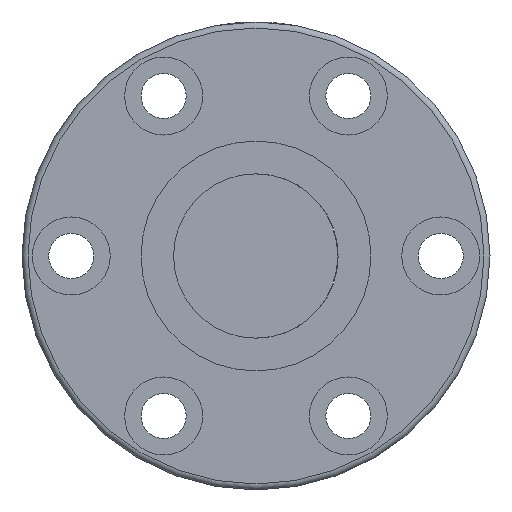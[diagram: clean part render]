
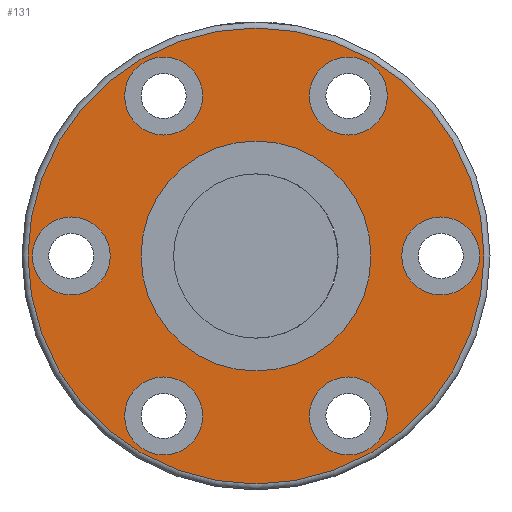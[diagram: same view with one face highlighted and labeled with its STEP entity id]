
A CAD part, front view. The second image highlights one B-rep face of the part: STEP entity #131.
In plain terms, the highlighted planar face has unit normal (0, -1, 0).
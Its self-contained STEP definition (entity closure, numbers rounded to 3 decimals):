
#110=PLANE('',#666);
#131=ADVANCED_FACE('',(#199,#200,#201,#202,#203,#204,#205,#206),#110,.F.);
#199=FACE_BOUND('',#301,.T.);
#200=FACE_BOUND('',#302,.T.);
#201=FACE_BOUND('',#303,.T.);
#202=FACE_BOUND('',#304,.T.);
#203=FACE_BOUND('',#305,.T.);
#204=FACE_BOUND('',#306,.T.);
#205=FACE_BOUND('',#307,.T.);
#206=FACE_BOUND('',#308,.T.);
#301=EDGE_LOOP('',(#403));
#302=EDGE_LOOP('',(#404));
#303=EDGE_LOOP('',(#405));
#304=EDGE_LOOP('',(#406));
#305=EDGE_LOOP('',(#407));
#306=EDGE_LOOP('',(#408));
#307=EDGE_LOOP('',(#409));
#308=EDGE_LOOP('',(#410));
#403=ORIENTED_EDGE('',*,*,#554,.T.);
#404=ORIENTED_EDGE('',*,*,#555,.T.);
#405=ORIENTED_EDGE('',*,*,#556,.T.);
#406=ORIENTED_EDGE('',*,*,#557,.T.);
#407=ORIENTED_EDGE('',*,*,#558,.T.);
#408=ORIENTED_EDGE('',*,*,#559,.T.);
#409=ORIENTED_EDGE('',*,*,#560,.T.);
#410=ORIENTED_EDGE('',*,*,#561,.F.);
#503=VERTEX_POINT('',#946);
#504=VERTEX_POINT('',#948);
#505=VERTEX_POINT('',#950);
#506=VERTEX_POINT('',#952);
#507=VERTEX_POINT('',#954);
#508=VERTEX_POINT('',#956);
#509=VERTEX_POINT('',#958);
#510=VERTEX_POINT('',#960);
#554=EDGE_CURVE('',#503,#503,#605,.T.);
#555=EDGE_CURVE('',#504,#504,#606,.T.);
#556=EDGE_CURVE('',#505,#505,#607,.T.);
#557=EDGE_CURVE('',#506,#506,#608,.T.);
#558=EDGE_CURVE('',#507,#507,#609,.T.);
#559=EDGE_CURVE('',#508,#508,#610,.T.);
#560=EDGE_CURVE('',#509,#509,#611,.T.);
#561=EDGE_CURVE('',#510,#510,#612,.T.);
#605=CIRCLE('',#658,4.75);
#606=CIRCLE('',#659,4.75);
#607=CIRCLE('',#660,4.75);
#608=CIRCLE('',#661,4.75);
#609=CIRCLE('',#662,4.75);
#610=CIRCLE('',#663,4.75);
#611=CIRCLE('',#664,27.767);
#612=CIRCLE('',#665,14.);
#658=AXIS2_PLACEMENT_3D('',#945,#759,#760);
#659=AXIS2_PLACEMENT_3D('',#947,#761,#762);
#660=AXIS2_PLACEMENT_3D('',#949,#763,#764);
#661=AXIS2_PLACEMENT_3D('',#951,#765,#766);
#662=AXIS2_PLACEMENT_3D('',#953,#767,#768);
#663=AXIS2_PLACEMENT_3D('',#955,#769,#770);
#664=AXIS2_PLACEMENT_3D('',#957,#771,#772);
#665=AXIS2_PLACEMENT_3D('',#959,#773,#774);
#666=AXIS2_PLACEMENT_3D('',#961,#775,#776);
#759=DIRECTION('',(0.,1.,0.));
#760=DIRECTION('',(0.,0.,1.));
#761=DIRECTION('',(0.,1.,0.));
#762=DIRECTION('',(0.,0.,1.));
#763=DIRECTION('',(0.,1.,0.));
#764=DIRECTION('',(0.,0.,1.));
#765=DIRECTION('',(0.,1.,0.));
#766=DIRECTION('',(0.,0.,1.));
#767=DIRECTION('',(0.,1.,0.));
#768=DIRECTION('',(0.,0.,1.));
#769=DIRECTION('',(0.,1.,0.));
#770=DIRECTION('',(0.,0.,1.));
#771=DIRECTION('',(0.,-1.,0.));
#772=DIRECTION('',(0.,0.,1.));
#773=DIRECTION('',(0.,-1.,0.));
#774=DIRECTION('',(1.,0.,0.));
#775=DIRECTION('',(0.,1.,0.));
#776=DIRECTION('',(0.,0.,-1.));
#945=CARTESIAN_POINT('',(22.539,-25.461,0.));
#946=CARTESIAN_POINT('',(22.539,-25.461,4.75));
#947=CARTESIAN_POINT('',(-22.461,-25.461,0.));
#948=CARTESIAN_POINT('',(-22.461,-25.461,4.75));
#949=CARTESIAN_POINT('',(11.289,-25.461,-19.486));
#950=CARTESIAN_POINT('',(11.289,-25.461,-14.736));
#951=CARTESIAN_POINT('',(-11.211,-25.461,-19.486));
#952=CARTESIAN_POINT('',(-11.211,-25.461,-14.736));
#953=CARTESIAN_POINT('',(11.289,-25.461,19.486));
#954=CARTESIAN_POINT('',(11.289,-25.461,24.236));
#955=CARTESIAN_POINT('',(-11.211,-25.461,19.486));
#956=CARTESIAN_POINT('',(-11.211,-25.461,24.236));
#957=CARTESIAN_POINT('',(0.039,-25.461,0.));
#958=CARTESIAN_POINT('',(0.039,-25.461,27.767));
#959=CARTESIAN_POINT('',(0.039,-25.461,0.));
#960=CARTESIAN_POINT('',(14.039,-25.461,0.));
#961=CARTESIAN_POINT('',(0.039,-25.461,0.));
